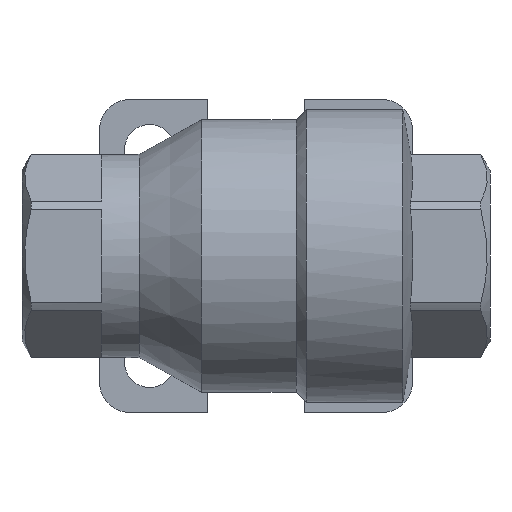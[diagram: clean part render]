
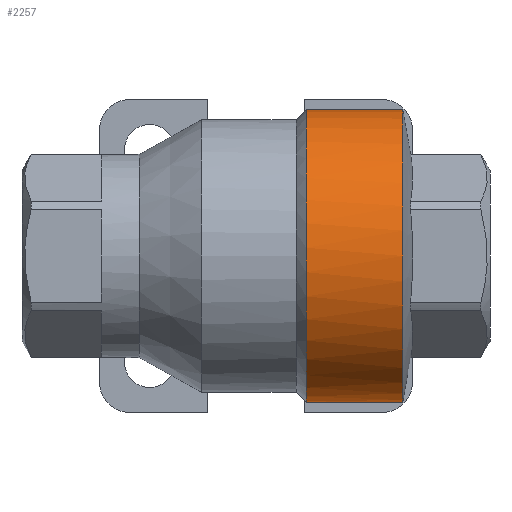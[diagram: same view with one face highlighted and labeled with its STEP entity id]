
A CAD part, front view. The second image highlights one B-rep face of the part: STEP entity #2257.
In plain terms, the highlighted cylindrical face has radius 17.5 mm (diameter 35 mm), a full revolution.
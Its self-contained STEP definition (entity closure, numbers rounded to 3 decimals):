
#20 = EDGE_CURVE ( 'NONE', #2441, #2349, #175, .T. ) ;
#31 = EDGE_CURVE ( 'NONE', #2349, #2441, #1998, .T. ) ;
#47 = EDGE_CURVE ( 'NONE', #2371, #2371, #157, .T. ) ;
#123 = CARTESIAN_POINT ( 'NONE',  ( 9.564, 17.016, -4.106 ) ) ;
#157 = CIRCLE ( 'NONE', #2481, 17.5 ) ;
#175 = CIRCLE ( 'NONE', #3176, 17.5 ) ;
#404 = CARTESIAN_POINT ( 'NONE',  ( 17.557, 0., 17.5 ) ) ;
#505 = CARTESIAN_POINT ( 'NONE',  ( 8.329, 16.353, -6.241 ) ) ;
#531 = CARTESIAN_POINT ( 'NONE',  ( 9.983, 17.255, 2.948 ) ) ;
#675 = EDGE_LOOP ( 'NONE', ( #1215, #1705 ) ) ;
#882 = EDGE_LOOP ( 'NONE', ( #1973 ) ) ;
#1185 = CARTESIAN_POINT ( 'NONE',  ( 6., 15.3, -8.495 ) ) ;
#1215 = ORIENTED_EDGE ( 'NONE', *, *, #31, .F. ) ;
#1469 = CARTESIAN_POINT ( 'NONE',  ( 8.069, 16.222, 6.574 ) ) ;
#1471 = DIRECTION ( 'NONE',  ( 0., 0., 1. ) ) ;
#1475 = DIRECTION ( 'NONE',  ( -1., 0., 0. ) ) ;
#1482 = CARTESIAN_POINT ( 'NONE',  ( 17.557, 0., 0. ) ) ;
#1532 = CARTESIAN_POINT ( 'NONE',  ( 6., 15.3, -8.495 ) ) ;
#1644 = CARTESIAN_POINT ( 'NONE',  ( 6., 15.3, 8.495 ) ) ;
#1705 = ORIENTED_EDGE ( 'NONE', *, *, #20, .F. ) ;
#1743 = DIRECTION ( 'NONE',  ( 0., 0., 1. ) ) ;
#1745 = DIRECTION ( 'NONE',  ( -1., 0., 0. ) ) ;
#1757 = CARTESIAN_POINT ( 'NONE',  ( -55.019, 0., 0. ) ) ;
#1793 = AXIS2_PLACEMENT_3D ( 'NONE', #1757, #1745, #1743 ) ;
#1973 = ORIENTED_EDGE ( 'NONE', *, *, #47, .T. ) ;
#1998 = B_SPLINE_CURVE_WITH_KNOTS ( 'NONE', 3,
 ( #2570, #2704, #2712, #1469, #3031, #3152, #3142, #2743, #3177, #3203, #531, #3129, #2854, #2886, #2867, #2878, #2737, #2970, #2968, #123, #3167, #2946, #2953, #505, #2939, #2977, #3115, #1185 ),
 .UNSPECIFIED., .F., .F.,
 ( 4, 2, 2, 2, 2, 2, 2, 2, 2, 2, 2, 2, 2, 4 ),
 ( 0., 0.003, 0.004, 0.005, 0.006, 0.008, 0.01, 0.011, 0.013, 0.014, 0.015, 0.017, 0.018, 0.02 ),
 .UNSPECIFIED. ) ;
#2257 = ADVANCED_FACE ( 'NONE', ( #2875, #2890 ), #2863, .T. ) ;
#2266 = CARTESIAN_POINT ( 'NONE',  ( 6., 0., 0. ) ) ;
#2349 = VERTEX_POINT ( 'NONE', #1644 ) ;
#2371 = VERTEX_POINT ( 'NONE', #404 ) ;
#2441 = VERTEX_POINT ( 'NONE', #1532 ) ;
#2481 = AXIS2_PLACEMENT_3D ( 'NONE', #1482, #1475, #1471 ) ;
#2525 = DIRECTION ( 'NONE',  ( -1., 0., 0. ) ) ;
#2548 = DIRECTION ( 'NONE',  ( 0., 0., 1. ) ) ;
#2570 = CARTESIAN_POINT ( 'NONE',  ( 6., 15.3, 8.495 ) ) ;
#2704 = CARTESIAN_POINT ( 'NONE',  ( 6.669, 15.562, 8.022 ) ) ;
#2712 = CARTESIAN_POINT ( 'NONE',  ( 7.267, 15.833, 7.484 ) ) ;
#2737 = CARTESIAN_POINT ( 'NONE',  ( 10.195, 17.379, -2.099 ) ) ;
#2743 = CARTESIAN_POINT ( 'NONE',  ( 9.385, 16.916, 4.499 ) ) ;
#2854 = CARTESIAN_POINT ( 'NONE',  ( 10.398, 17.499, 0.871 ) ) ;
#2863 = CYLINDRICAL_SURFACE ( 'NONE', #1793, 17.5 ) ;
#2867 = CARTESIAN_POINT ( 'NONE',  ( 10.375, 17.485, -0.837 ) ) ;
#2875 = FACE_OUTER_BOUND ( 'NONE', #675, .T. ) ;
#2878 = CARTESIAN_POINT ( 'NONE',  ( 10.272, 17.424, -1.684 ) ) ;
#2886 = CARTESIAN_POINT ( 'NONE',  ( 10.401, 17.5, -0.405 ) ) ;
#2890 = FACE_OUTER_BOUND ( 'NONE', #882, .T. ) ;
#2939 = CARTESIAN_POINT ( 'NONE',  ( 8.075, 16.225, -6.566 ) ) ;
#2946 = CARTESIAN_POINT ( 'NONE',  ( 9.007, 16.709, -5.215 ) ) ;
#2953 = CARTESIAN_POINT ( 'NONE',  ( 8.795, 16.595, -5.566 ) ) ;
#2968 = CARTESIAN_POINT ( 'NONE',  ( 9.866, 17.187, -3.318 ) ) ;
#2970 = CARTESIAN_POINT ( 'NONE',  ( 9.992, 17.26, -2.917 ) ) ;
#2977 = CARTESIAN_POINT ( 'NONE',  ( 7.269, 15.834, -7.482 ) ) ;
#3031 = CARTESIAN_POINT ( 'NONE',  ( 8.321, 16.349, 6.253 ) ) ;
#3115 = CARTESIAN_POINT ( 'NONE',  ( 6.669, 15.562, -8.022 ) ) ;
#3129 = CARTESIAN_POINT ( 'NONE',  ( 10.294, 17.436, 1.709 ) ) ;
#3142 = CARTESIAN_POINT ( 'NONE',  ( 9.002, 16.706, 5.225 ) ) ;
#3152 = CARTESIAN_POINT ( 'NONE',  ( 8.789, 16.592, 5.575 ) ) ;
#3167 = CARTESIAN_POINT ( 'NONE',  ( 9.392, 16.92, -4.485 ) ) ;
#3176 = AXIS2_PLACEMENT_3D ( 'NONE', #2266, #2525, #2548 ) ;
#3177 = CARTESIAN_POINT ( 'NONE',  ( 9.556, 17.012, 4.124 ) ) ;
#3203 = CARTESIAN_POINT ( 'NONE',  ( 9.855, 17.181, 3.349 ) ) ;
